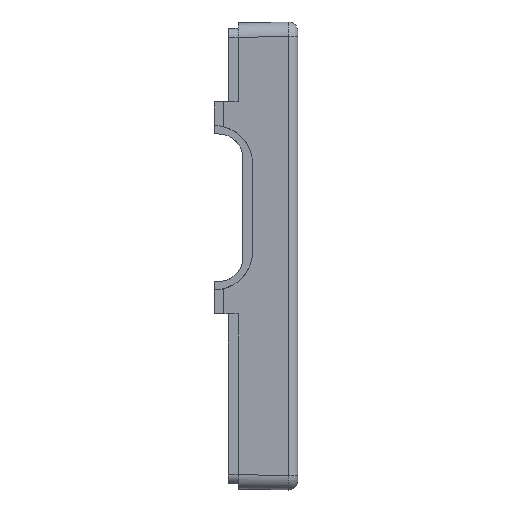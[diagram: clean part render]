
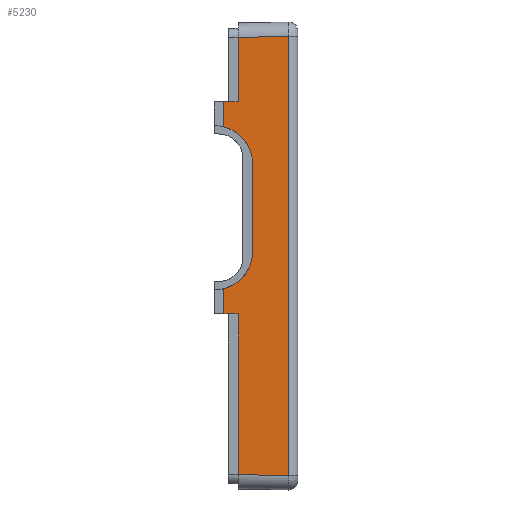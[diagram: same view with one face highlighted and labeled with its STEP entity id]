
A CAD part, left-side view. The second image highlights one B-rep face of the part: STEP entity #5230.
In plain terms, the highlighted planar face has unit normal (-1, 0.018, 0).
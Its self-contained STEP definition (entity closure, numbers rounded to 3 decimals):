
#13 = DIRECTION ( 'NONE',  ( 0., 0., 1. ) ) ;
#111 =( BOUNDED_CURVE ( )  B_SPLINE_CURVE ( 3, ( #4952, #2346, #2298, #4041 ),
 .UNSPECIFIED., .F., .T. ) 
 B_SPLINE_CURVE_WITH_KNOTS ( ( 4, 4 ),
 ( 3.142, 4.46 ),
 .UNSPECIFIED. ) 
 CURVE ( )  GEOMETRIC_REPRESENTATION_ITEM ( )  RATIONAL_B_SPLINE_CURVE ( ( 1., 0.86, 0.86, 1. ) ) 
 REPRESENTATION_ITEM ( '' )  );
#142 = VERTEX_POINT ( 'NONE', #362 ) ;
#149 = VECTOR ( 'NONE', #692, 1000. ) ;
#190 = CARTESIAN_POINT ( 'NONE',  ( -59.871, 7.4, 48.5 ) ) ;
#241 = VERTEX_POINT ( 'NONE', #4589 ) ;
#261 = EDGE_CURVE ( 'NONE', #4888, #5179, #313, .T. ) ;
#313 = LINE ( 'NONE', #4539, #868 ) ;
#315 = VECTOR ( 'NONE', #4722, 1000. ) ;
#332 = VECTOR ( 'NONE', #1773, 1000. ) ;
#354 = PLANE ( 'NONE',  #4860 ) ;
#362 = CARTESIAN_POINT ( 'NONE',  ( -59.818, 10.4, 45.319 ) ) ;
#479 = EDGE_CURVE ( 'NONE', #1002, #4888, #1992, .T. ) ;
#543 = EDGE_CURVE ( 'NONE', #5503, #5311, #1325, .T. ) ;
#692 = DIRECTION ( 'NONE',  ( 0., 0., 1. ) ) ;
#711 = CARTESIAN_POINT ( 'NONE',  ( -59.83, 9.725, 25.848 ) ) ;
#714 = DIRECTION ( 'NONE',  ( -0.017, -1., -0.017 ) ) ;
#728 = ORIENTED_EDGE ( 'NONE', *, *, #4514, .F. ) ;
#749 = EDGE_CURVE ( 'NONE', #241, #5179, #2888, .T. ) ;
#854 = CARTESIAN_POINT ( 'NONE',  ( -60., 0., 32. ) ) ;
#868 = VECTOR ( 'NONE', #4950, 1000. ) ;
#875 = VECTOR ( 'NONE', #714, 1000. ) ;
#898 = EDGE_CURVE ( 'NONE', #3124, #142, #1055, .T. ) ;
#900 = CARTESIAN_POINT ( 'NONE',  ( -59.818, 10.4, 48.5 ) ) ;
#999 = LINE ( 'NONE', #2395, #149 ) ;
#1002 = VERTEX_POINT ( 'NONE', #4742 ) ;
#1055 = LINE ( 'NONE', #1882, #332 ) ;
#1085 = ORIENTED_EDGE ( 'NONE', *, *, #749, .T. ) ;
#1101 = CARTESIAN_POINT ( 'NONE',  ( -59.818, 10.4, 32. ) ) ;
#1158 = ORIENTED_EDGE ( 'NONE', *, *, #1694, .F. ) ;
#1312 = LINE ( 'NONE', #900, #315 ) ;
#1325 = LINE ( 'NONE', #854, #3272 ) ;
#1460 = CARTESIAN_POINT ( 'NONE',  ( -60.036, -2.052, -45.536 ) ) ;
#1466 = DIRECTION ( 'NONE',  ( 0., 0., 1. ) ) ;
#1494 = CARTESIAN_POINT ( 'NONE',  ( -59.766, 13.4, 48.5 ) ) ;
#1545 = CARTESIAN_POINT ( 'NONE',  ( -60., 0., 48.5 ) ) ;
#1593 = ORIENTED_EDGE ( 'NONE', *, *, #479, .F. ) ;
#1596 = EDGE_CURVE ( 'NONE', #1792, #4916, #111, .T. ) ;
#1694 = EDGE_CURVE ( 'NONE', #1792, #4195, #3234, .T. ) ;
#1757 = VECTOR ( 'NONE', #13, 1000. ) ;
#1773 = DIRECTION ( 'NONE',  ( 0.017, 1., -0.017 ) ) ;
#1792 = VERTEX_POINT ( 'NONE', #4582 ) ;
#1820 = CARTESIAN_POINT ( 'NONE',  ( -59.999, 0.035, 45.5 ) ) ;
#1845 = VECTOR ( 'NONE', #3180, 1000. ) ;
#1878 = VERTEX_POINT ( 'NONE', #2457 ) ;
#1882 = CARTESIAN_POINT ( 'NONE',  ( -60.001, -0.052, 45.501 ) ) ;
#1972 = EDGE_LOOP ( 'NONE', ( #3841, #3146, #5167, #4242, #2090, #728, #3963, #2854, #1158, #4820, #2803, #1085, #3680, #1593 ) ) ;
#1991 = CARTESIAN_POINT ( 'NONE',  ( -59.766, 13.4, 26.797 ) ) ;
#1992 = LINE ( 'NONE', #3690, #2562 ) ;
#2052 = EDGE_CURVE ( 'NONE', #5266, #2880, #5189, .T. ) ;
#2083 = CARTESIAN_POINT ( 'NONE',  ( -59.784, 12.4, 32. ) ) ;
#2090 = ORIENTED_EDGE ( 'NONE', *, *, #543, .T. ) ;
#2298 = CARTESIAN_POINT ( 'NONE',  ( -59.83, 9.725, -5.848 ) ) ;
#2346 = CARTESIAN_POINT ( 'NONE',  ( -59.871, 7.4, -2.847 ) ) ;
#2383 = DIRECTION ( 'NONE',  ( -0.017, -1., 0.017 ) ) ;
#2395 = CARTESIAN_POINT ( 'NONE',  ( -59.999, 0.035, 48.5 ) ) ;
#2457 = CARTESIAN_POINT ( 'NONE',  ( -59.999, 0.035, -45.5 ) ) ;
#2469 = CARTESIAN_POINT ( 'NONE',  ( -59.784, 12.4, 32. ) ) ;
#2479 = VECTOR ( 'NONE', #1466, 1000. ) ;
#2532 = DIRECTION ( 'NONE',  ( -0.017, -1., 0. ) ) ;
#2562 = VECTOR ( 'NONE', #5383, 1000. ) ;
#2597 = CARTESIAN_POINT ( 'NONE',  ( -59.766, 13.4, -6.797 ) ) ;
#2765 = CARTESIAN_POINT ( 'NONE',  ( -59.784, 12.4, -12. ) ) ;
#2803 = ORIENTED_EDGE ( 'NONE', *, *, #5170, .F. ) ;
#2854 = ORIENTED_EDGE ( 'NONE', *, *, #4545, .T. ) ;
#2880 = VERTEX_POINT ( 'NONE', #3334 ) ;
#2888 = LINE ( 'NONE', #3222, #875 ) ;
#2894 = FACE_OUTER_BOUND ( 'NONE', #1972, .T. ) ;
#3115 = DIRECTION ( 'NONE',  ( -0.017, -1., -0.017 ) ) ;
#3124 = VERTEX_POINT ( 'NONE', #1820 ) ;
#3135 = EDGE_CURVE ( 'NONE', #1002, #1878, #5218, .T. ) ;
#3146 = ORIENTED_EDGE ( 'NONE', *, *, #5025, .T. ) ;
#3180 = DIRECTION ( 'NONE',  ( 0., 0., 1. ) ) ;
#3222 = CARTESIAN_POINT ( 'NONE',  ( -59.782, 12.487, -11.998 ) ) ;
#3234 = LINE ( 'NONE', #190, #1845 ) ;
#3272 = VECTOR ( 'NONE', #5131, 1000. ) ;
#3300 = CARTESIAN_POINT ( 'NONE',  ( -59.766, 13.4, 26.797 ) ) ;
#3334 = CARTESIAN_POINT ( 'NONE',  ( -59.766, 13.4, 31.983 ) ) ;
#3373 =( BOUNDED_CURVE ( )  B_SPLINE_CURVE ( 3, ( #3300, #711, #3676, #5372 ),
 .UNSPECIFIED., .F., .T. ) 
 B_SPLINE_CURVE_WITH_KNOTS ( ( 4, 4 ),
 ( 1.823, 3.142 ),
 .UNSPECIFIED. ) 
 CURVE ( )  GEOMETRIC_REPRESENTATION_ITEM ( )  RATIONAL_B_SPLINE_CURVE ( ( 1., 0.86, 0.86, 1. ) ) 
 REPRESENTATION_ITEM ( '' )  );
#3671 = EDGE_CURVE ( 'NONE', #5503, #142, #1312, .T. ) ;
#3676 = CARTESIAN_POINT ( 'NONE',  ( -59.871, 7.4, 22.847 ) ) ;
#3677 = VECTOR ( 'NONE', #3115, 1000. ) ;
#3680 = ORIENTED_EDGE ( 'NONE', *, *, #261, .F. ) ;
#3690 = CARTESIAN_POINT ( 'NONE',  ( -59.818, 10.4, 48.5 ) ) ;
#3841 = ORIENTED_EDGE ( 'NONE', *, *, #3135, .T. ) ;
#3963 = ORIENTED_EDGE ( 'NONE', *, *, #2052, .F. ) ;
#4041 = CARTESIAN_POINT ( 'NONE',  ( -59.766, 13.4, -6.797 ) ) ;
#4128 = LINE ( 'NONE', #2469, #4780 ) ;
#4189 = DIRECTION ( 'NONE',  ( -1., 0.017, 0. ) ) ;
#4195 = VERTEX_POINT ( 'NONE', #4455 ) ;
#4242 = ORIENTED_EDGE ( 'NONE', *, *, #3671, .F. ) ;
#4298 = CARTESIAN_POINT ( 'NONE',  ( -59.766, 13.4, 48.5 ) ) ;
#4455 = CARTESIAN_POINT ( 'NONE',  ( -59.871, 7.4, 19.051 ) ) ;
#4514 = EDGE_CURVE ( 'NONE', #2880, #5311, #4128, .T. ) ;
#4539 = CARTESIAN_POINT ( 'NONE',  ( -60., 0., -12. ) ) ;
#4545 = EDGE_CURVE ( 'NONE', #5266, #4195, #3373, .T. ) ;
#4582 = CARTESIAN_POINT ( 'NONE',  ( -59.871, 7.4, 0.949 ) ) ;
#4589 = CARTESIAN_POINT ( 'NONE',  ( -59.766, 13.4, -11.983 ) ) ;
#4696 = CARTESIAN_POINT ( 'NONE',  ( -59.818, 10.4, -12. ) ) ;
#4722 = DIRECTION ( 'NONE',  ( 0., 0., 1. ) ) ;
#4742 = CARTESIAN_POINT ( 'NONE',  ( -59.818, 10.4, -45.319 ) ) ;
#4780 = VECTOR ( 'NONE', #2383, 1000. ) ;
#4820 = ORIENTED_EDGE ( 'NONE', *, *, #1596, .T. ) ;
#4860 = AXIS2_PLACEMENT_3D ( 'NONE', #1545, #4189, #2532 ) ;
#4888 = VERTEX_POINT ( 'NONE', #4696 ) ;
#4916 = VERTEX_POINT ( 'NONE', #2597 ) ;
#4950 = DIRECTION ( 'NONE',  ( 0.017, 1., 0. ) ) ;
#4952 = CARTESIAN_POINT ( 'NONE',  ( -59.871, 7.4, 0.949 ) ) ;
#5025 = EDGE_CURVE ( 'NONE', #1878, #3124, #999, .T. ) ;
#5131 = DIRECTION ( 'NONE',  ( 0.017, 1., 0. ) ) ;
#5167 = ORIENTED_EDGE ( 'NONE', *, *, #898, .T. ) ;
#5170 = EDGE_CURVE ( 'NONE', #241, #4916, #5274, .T. ) ;
#5179 = VERTEX_POINT ( 'NONE', #2765 ) ;
#5189 = LINE ( 'NONE', #4298, #1757 ) ;
#5218 = LINE ( 'NONE', #1460, #3677 ) ;
#5230 = ADVANCED_FACE ( 'NONE', ( #2894 ), #354, .T. ) ;
#5266 = VERTEX_POINT ( 'NONE', #1991 ) ;
#5274 = LINE ( 'NONE', #1494, #2479 ) ;
#5311 = VERTEX_POINT ( 'NONE', #2083 ) ;
#5372 = CARTESIAN_POINT ( 'NONE',  ( -59.871, 7.4, 19.051 ) ) ;
#5383 = DIRECTION ( 'NONE',  ( 0., 0., 1. ) ) ;
#5503 = VERTEX_POINT ( 'NONE', #1101 ) ;
